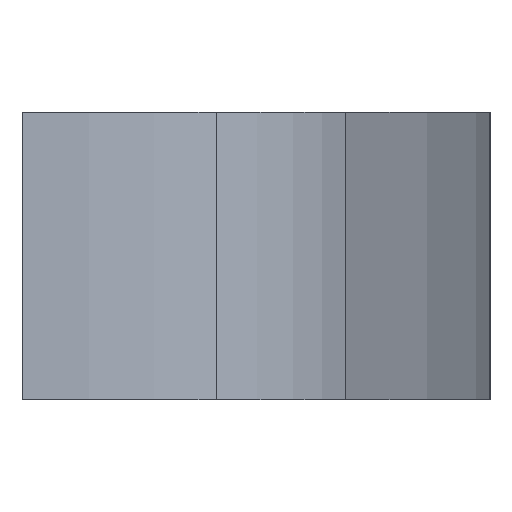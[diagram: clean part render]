
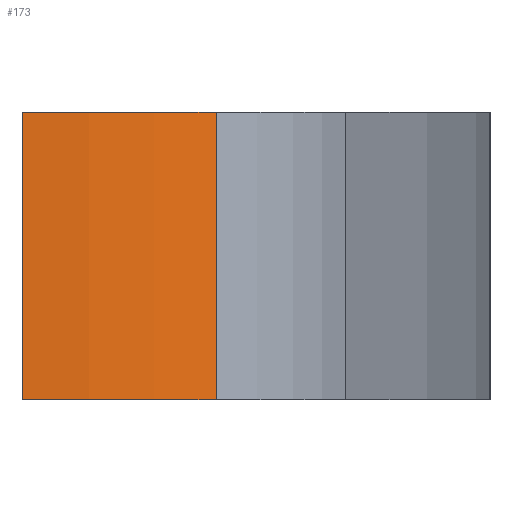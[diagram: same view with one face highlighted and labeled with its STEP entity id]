
A CAD part, left-side view. The second image highlights one B-rep face of the part: STEP entity #173.
In plain terms, the highlighted cylindrical face has radius 29 mm (diameter 58 mm), a partial arc.
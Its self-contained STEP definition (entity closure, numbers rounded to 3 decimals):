
#145 = VERTEX_POINT( '', #388 );
#167 = EDGE_CURVE( '', #145, #205, #411, .T. );
#173 = ADVANCED_FACE( '', ( #417 ), #418, .T. );
#205 = VERTEX_POINT( '', #453 );
#209 = EDGE_CURVE( '', #277, #329, #457, .T. );
#211 = EDGE_CURVE( '', #145, #277, #459, .T. );
#271 = EDGE_CURVE( '', #205, #329, #528, .T. );
#277 = VERTEX_POINT( '', #534 );
#329 = VERTEX_POINT( '', #592 );
#388 = CARTESIAN_POINT( '', ( -20., 0., 10. ) );
#411 = CIRCLE( '', #677, 29. );
#417 = FACE_OUTER_BOUND( '', #687, .T. );
#418 = CYLINDRICAL_SURFACE( '', #688, 29. );
#453 = CARTESIAN_POINT( '', ( -16.636, -13.489, 10. ) );
#457 = CIRCLE( '', #742, 29. );
#459 = LINE( '', #745, #746 );
#528 = LINE( '', #840, #841 );
#534 = CARTESIAN_POINT( '', ( -20., 0., -10. ) );
#592 = CARTESIAN_POINT( '', ( -16.636, -13.489, -10. ) );
#677 = AXIS2_PLACEMENT_3D( '', #994, #995, #996 );
#687 = EDGE_LOOP( '', ( #1000, #1001, #1002, #1003 ) );
#688 = AXIS2_PLACEMENT_3D( '', #1004, #1005, #1006 );
#742 = AXIS2_PLACEMENT_3D( '', #1048, #1049, #1050 );
#745 = CARTESIAN_POINT( '', ( -20., 0., 10. ) );
#746 = VECTOR( '', #1051, 1. );
#840 = CARTESIAN_POINT( '', ( -16.636, -13.489, 10. ) );
#841 = VECTOR( '', #1148, 1. );
#994 = CARTESIAN_POINT( '', ( 9., 0.068, 10. ) );
#995 = DIRECTION( '', ( 0., 0., 1. ) );
#996 = DIRECTION( '', ( -1., -0.002, 0. ) );
#1000 = ORIENTED_EDGE( '', *, *, #209, .T. );
#1001 = ORIENTED_EDGE( '', *, *, #271, .F. );
#1002 = ORIENTED_EDGE( '', *, *, #167, .F. );
#1003 = ORIENTED_EDGE( '', *, *, #211, .T. );
#1004 = CARTESIAN_POINT( '', ( 9., 0.068, 10. ) );
#1005 = DIRECTION( '', ( 0., 0., 1. ) );
#1006 = DIRECTION( '', ( -1., -0.002, 0. ) );
#1048 = CARTESIAN_POINT( '', ( 9., 0.068, -10. ) );
#1049 = DIRECTION( '', ( 0., 0., 1. ) );
#1050 = DIRECTION( '', ( -1., -0.002, 0. ) );
#1051 = DIRECTION( '', ( 0., 0., -1. ) );
#1148 = DIRECTION( '', ( 0., 0., -1. ) );
